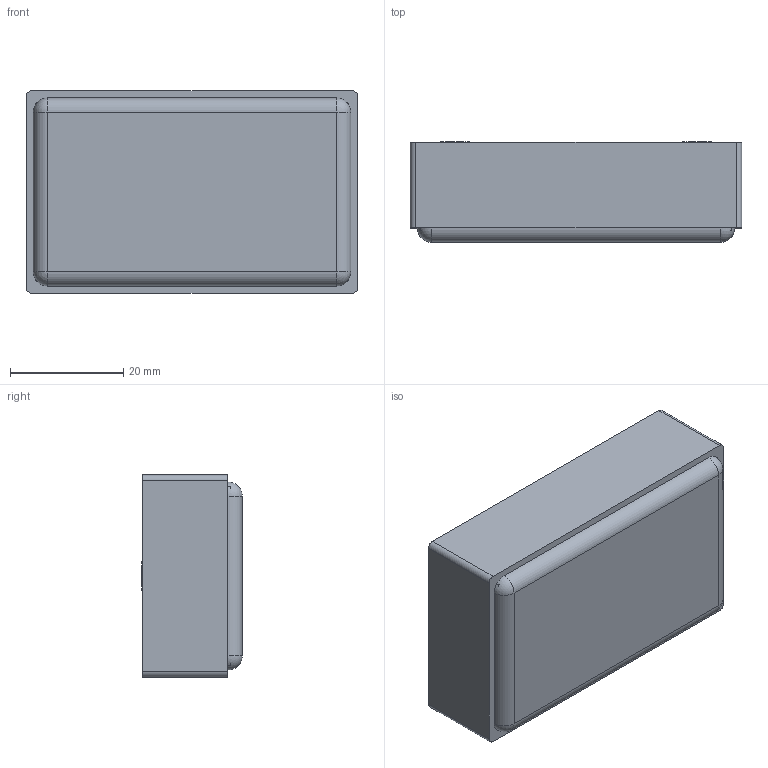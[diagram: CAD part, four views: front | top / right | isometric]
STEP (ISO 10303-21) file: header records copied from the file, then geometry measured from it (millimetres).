
FILE_DESCRIPTION (( 'STEP AP214' ), '1' );
FILE_NAME ('Cuerpo PP56.STEP', '2016-09-12T18:45:15', ( 'aaa' ), ( '' ), 'SwSTEP 2.0', 'SolidWorks 2013', '' );
FILE_SCHEMA (( 'AUTOMOTIVE_DESIGN' ));
Length unit declared in the file: millimetre
Products named in the file (1): Cuerpo PP56
Bounding box: 58.5 x 17.7 x 35.7 mm (x, y, z)
Volume: 9552.2 mm3; surface area: 10725.8 mm2
Topology: 1 solids, 1 shells, 42 faces, 96 edges, 60 vertices
Faces by surface type: cylinder 20, plane 18, sphere 4
Entity records: 1202 total; most frequent: DIRECTION 222, CARTESIAN_POINT 195, ORIENTED_EDGE 184, EDGE_CURVE 92, AXIS2_PLACEMENT_3D 87, VERTEX_POINT 60, EDGE_LOOP 50, LINE 48
